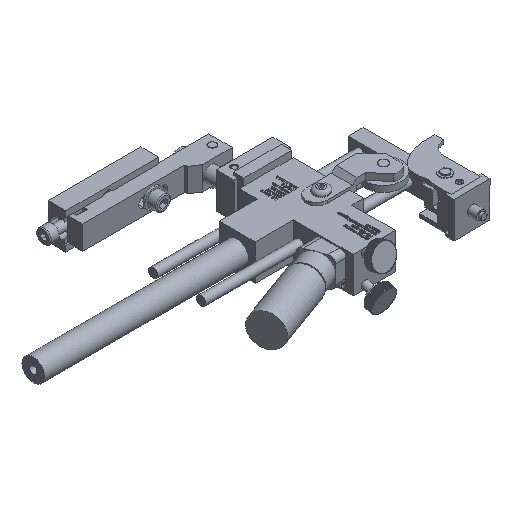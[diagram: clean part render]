
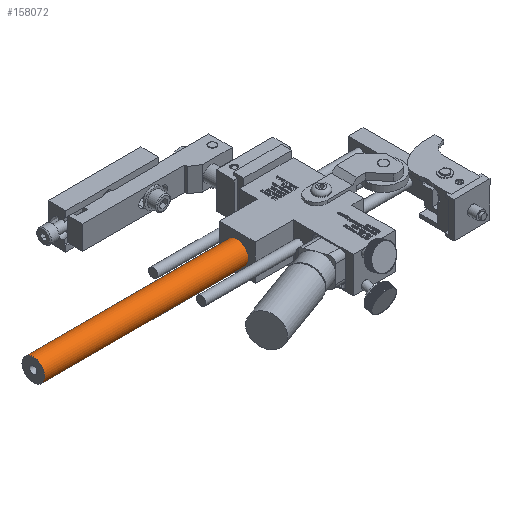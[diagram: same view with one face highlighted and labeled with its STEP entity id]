
A CAD part, isometric view. The second image highlights one B-rep face of the part: STEP entity #158072.
In plain terms, the highlighted cylindrical face has radius 5.969 mm (diameter 11.938 mm), a full revolution.
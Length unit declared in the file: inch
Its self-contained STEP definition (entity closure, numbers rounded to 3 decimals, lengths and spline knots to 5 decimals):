
#157850=CARTESIAN_POINT('',(-1.4815,0.8125,0.61));
#157851=VERTEX_POINT('',#157850);
#157852=CARTESIAN_POINT('',(-1.4815,0.8125,0.375));
#157853=DIRECTION('',(1.0,0.0,0.0));
#157854=DIRECTION('',(0.0,0.0,-1.0));
#157855=AXIS2_PLACEMENT_3D('',#157852,#157853,#157854);
#157856=CIRCLE('',#157855,0.235);
#157857=EDGE_CURVE('',#157851,#157851,#157856,.T.);
#158038=CARTESIAN_POINT('',(-5.7315,0.8125,0.61));
#158039=VERTEX_POINT('',#158038);
#158040=CARTESIAN_POINT('',(-5.7315,0.8125,0.375));
#158041=DIRECTION('',(1.0,0.0,0.0));
#158042=DIRECTION('',(0.0,0.0,-1.0));
#158043=AXIS2_PLACEMENT_3D('',#158040,#158041,#158042);
#158044=CIRCLE('',#158043,0.235);
#158045=EDGE_CURVE('',#158039,#158039,#158044,.T.);
#158061=CARTESIAN_POINT('',(-1.4815,0.8125,0.375));
#158062=DIRECTION('',(-1.0,0.,0.));
#158063=DIRECTION('',(0.0,0.0,-1.0));
#158064=AXIS2_PLACEMENT_3D('',#158061,#158062,#158063);
#158065=CYLINDRICAL_SURFACE('',#158064,0.235);
#158066=ORIENTED_EDGE('',*,*,#158045,.T.);
#158067=EDGE_LOOP('',(#158066));
#158068=FACE_OUTER_BOUND('',#158067,.T.);
#158069=ORIENTED_EDGE('',*,*,#157857,.F.);
#158070=EDGE_LOOP('',(#158069));
#158071=FACE_BOUND('',#158070,.T.);
#158072=ADVANCED_FACE('',(#158068,#158071),#158065,.T.);
